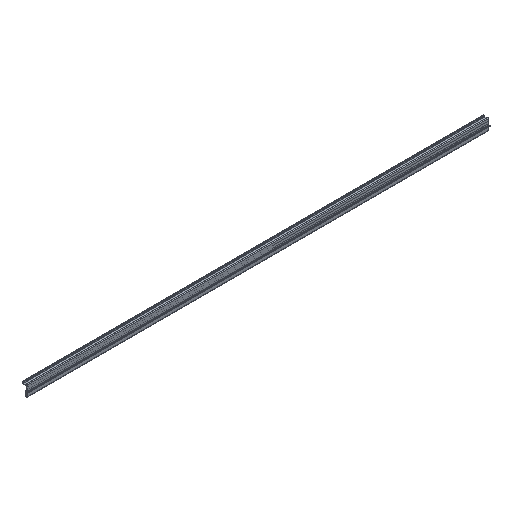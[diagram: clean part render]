
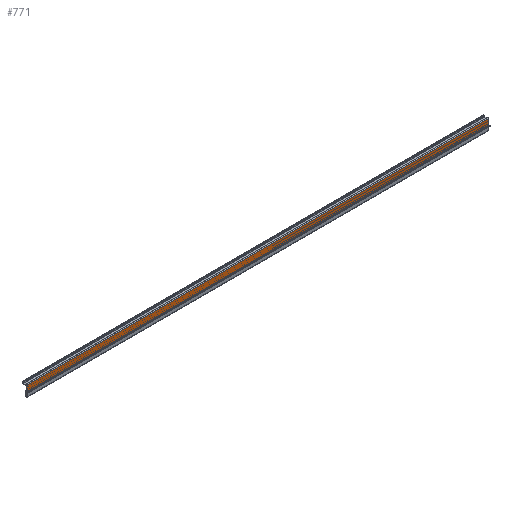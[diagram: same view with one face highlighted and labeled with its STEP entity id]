
A CAD part, isometric view. The second image highlights one B-rep face of the part: STEP entity #771.
In plain terms, the highlighted planar face has unit normal (0, -1, 0).
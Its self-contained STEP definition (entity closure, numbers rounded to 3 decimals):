
#317 = VERTEX_POINT( '', #880 );
#385 = EDGE_CURVE( '', #317, #671, #957, .T. );
#461 = VERTEX_POINT( '', #1040 );
#495 = VERTEX_POINT( '', #1077 );
#671 = VERTEX_POINT( '', #1272 );
#743 = EDGE_CURVE( '', #317, #495, #1345, .T. );
#771 = ADVANCED_FACE( '', ( #1377 ), #1378, .T. );
#779 = EDGE_CURVE( '', #461, #671, #1386, .T. );
#833 = EDGE_CURVE( '', #495, #461, #1442, .T. );
#880 = CARTESIAN_POINT( '', ( 0., -3.75, 57. ) );
#957 = LINE( '', #1586, #1587 );
#1040 = CARTESIAN_POINT( '', ( 2400., -3.75, 28. ) );
#1077 = CARTESIAN_POINT( '', ( 0., -3.75, 28. ) );
#1272 = CARTESIAN_POINT( '', ( 2400., -3.75, 57. ) );
#1345 = LINE( '', #2120, #2121 );
#1377 = FACE_OUTER_BOUND( '', #2168, .T. );
#1378 = PLANE( '', #2169 );
#1386 = LINE( '', #2181, #2182 );
#1442 = LINE( '', #2270, #2271 );
#1586 = CARTESIAN_POINT( '', ( 0., -3.75, 57. ) );
#1587 = VECTOR( '', #2396, 1. );
#2120 = CARTESIAN_POINT( '', ( 0., -3.75, 57. ) );
#2121 = VECTOR( '', #2845, 1. );
#2168 = EDGE_LOOP( '', ( #2889, #2890, #2891, #2892 ) );
#2169 = AXIS2_PLACEMENT_3D( '', #2893, #2894, #2895 );
#2181 = CARTESIAN_POINT( '', ( 2400., -3.75, 57. ) );
#2182 = VECTOR( '', #2900, 1. );
#2270 = CARTESIAN_POINT( '', ( 0., -3.75, 28. ) );
#2271 = VECTOR( '', #2945, 1. );
#2396 = DIRECTION( '', ( 1., 0., 0. ) );
#2845 = DIRECTION( '', ( 0., 0., -1. ) );
#2889 = ORIENTED_EDGE( '', *, *, #779, .T. );
#2890 = ORIENTED_EDGE( '', *, *, #385, .F. );
#2891 = ORIENTED_EDGE( '', *, *, #743, .T. );
#2892 = ORIENTED_EDGE( '', *, *, #833, .T. );
#2893 = CARTESIAN_POINT( '', ( 0., -3.75, 28. ) );
#2894 = DIRECTION( '', ( 0., -1., 0. ) );
#2895 = DIRECTION( '', ( 0., 0., -1. ) );
#2900 = DIRECTION( '', ( 0., 0., 1. ) );
#2945 = DIRECTION( '', ( 1., 0., 0. ) );
